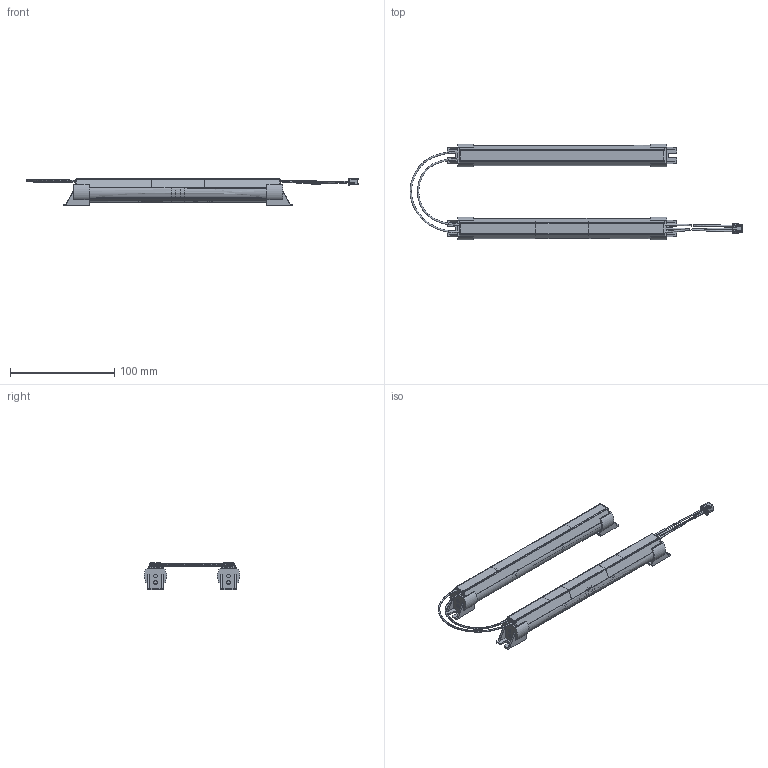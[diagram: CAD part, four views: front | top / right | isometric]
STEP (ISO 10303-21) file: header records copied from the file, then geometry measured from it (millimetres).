
FILE_DESCRIPTION((''),'2;1');
FILE_NAME('15012933Z_DMEC_28002330_PO4-6C','2018-11-09T14:01:30',('juergen.hrach'),(''),'CREO PARAMETRIC BY PTC INC, 2017380','CREO PARAMETRIC BY PTC INC, 2017380','');
FILE_SCHEMA(('AUTOMOTIVE_DESIGN { 1 0 10303 214 1 1 1 1 }'));
Products named in the file (1): 15012933Z_DMEC_28002330_PO4-6C
Bounding box: 318.2 x 91.93 x 26.15 mm (x, y, z)
Volume: 120783.1 mm3; surface area: 137864.4 mm2
Topology: 6 solids, 10 shells, 1264 faces, 3655 edges, 2318 vertices
Faces by surface type: bspline 807, revolution 451, cylinder 6
Entity records: 68738 total; most frequent: CARTESIAN_POINT 31794, ORIENTED_EDGE 7222, DIRECTION 4155, EDGE_CURVE 3629, VERTEX_POINT 2318, VECTOR 1956, LINE 1956, EDGE_LOOP 1343
